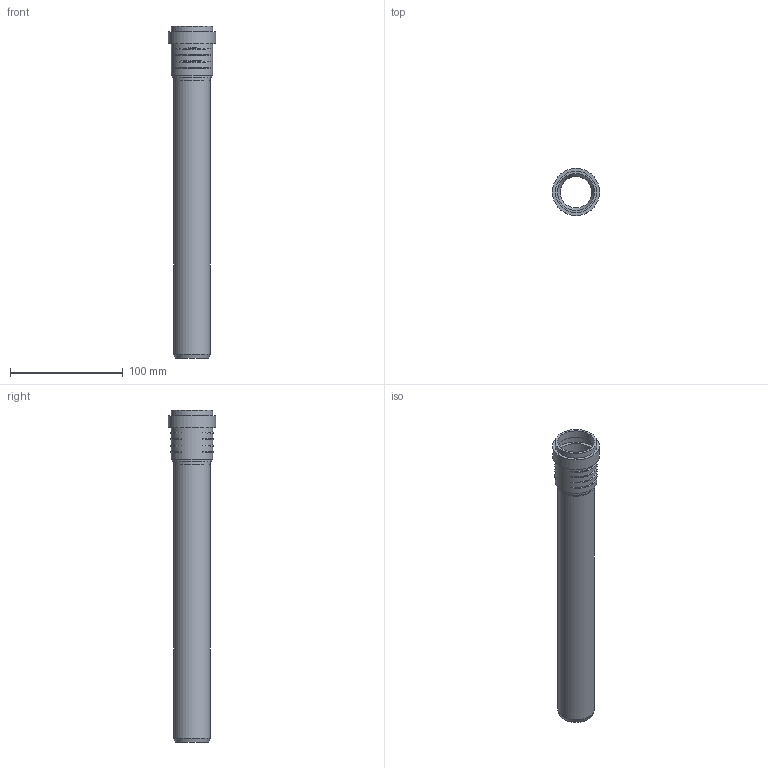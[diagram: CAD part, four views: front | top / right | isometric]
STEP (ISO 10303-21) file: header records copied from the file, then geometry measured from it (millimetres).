
FILE_DESCRIPTION(/* description */ (''),/* implementation_level */ '2;1');
FILE_NAME(/* name */ 'Z:\Geberit\Export\NewStep\390001.stp',/* time_stamp */ '2014-04-02T08:07:43+02:00',/* author */ ('ML'),/* organization */ (''),/* preprocessor_version */ 'ST-DEVELOPER v15.2',/* originating_system */ 'Autodesk Inventor 2014',/* authorisation */ '');
FILE_SCHEMA (('AUTOMOTIVE_DESIGN { 1 0 10303 214 3 1 1 }'));
Length unit declared in the file: millimetre
Products named in the file (3): 861660; 861580ohne; 390001
Bounding box: 41.8 x 41.8 x 294.3 mm (x, y, z)
Volume: 59120.3 mm3; surface area: 60129.7 mm2
Topology: 2 solids, 2 shells, 47 faces, 104 edges, 71 vertices
Faces by surface type: torus 24, cylinder 11, plane 10, cone 2
Full cylindrical faces by diameter (mm): 28.15 x2, 32.15 x2, 32.8 x2, 34.8 x1, 36.8 x2, 37.8 x1, 41.8 x1
Entity records: 1971 total; most frequent: CARTESIAN_POINT 930, DIRECTION 182, ORIENTED_EDGE 174, AXIS2_PLACEMENT_3D 91, EDGE_CURVE 87, EDGE_LOOP 78, VERTEX_POINT 71, STYLED_ITEM 49
